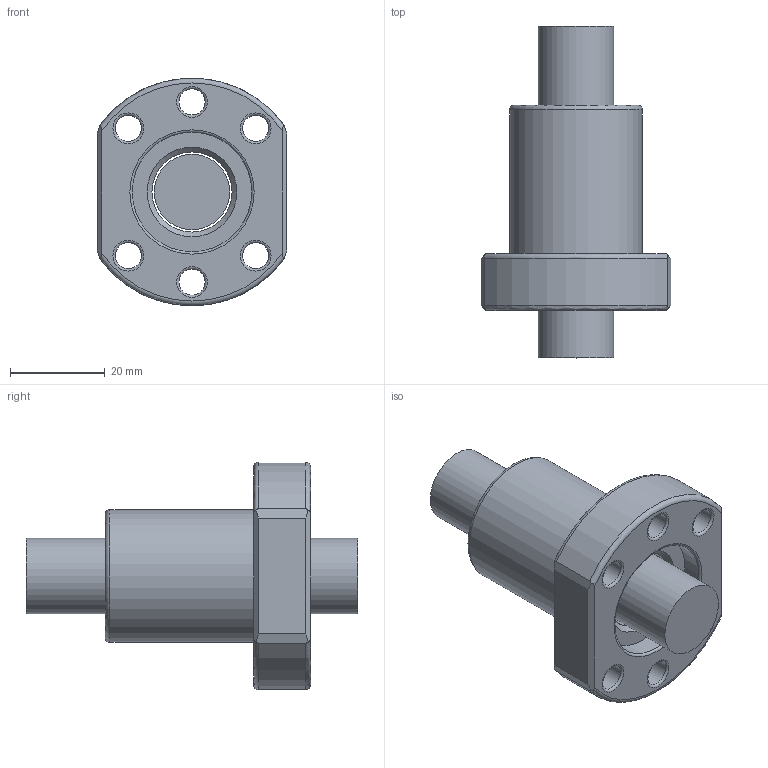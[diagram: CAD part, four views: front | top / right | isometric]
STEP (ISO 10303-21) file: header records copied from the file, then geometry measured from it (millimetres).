
FILE_DESCRIPTION(/* description */ (''),/* implementation_level */ '2;1');
FILE_NAME(/* name */ '1610.prt.step',/* time_stamp */ '2008-12-05T09:30:04+08:00',/* author */ (''),/* organization */ (''),/* preprocessor_version */ 'ST-DEVELOPER v11',/* originating_system */ 'SIEMENS UGS NX 6.0',/* authorisation */ '');
FILE_SCHEMA (('AUTOMOTIVE_DESIGN { 1 0 10303 214 1 1 1 1 }'));
Length unit declared in the file: millimetre
Products named in the file (1): 1610
Bounding box: 40 x 70 x 47.92 mm (x, y, z)
Volume: 39089.9 mm3; surface area: 14487.1 mm2
Topology: 2 solids, 2 shells, 50 faces, 117 edges, 73 vertices
Faces by surface type: torus 19, plane 16, cylinder 13, cone 2
Full cylindrical faces by diameter (mm): 5.5 x6, 15.95 x1, 16.9 x1, 25.2 x2, 28 x1
Entity records: 1526 total; most frequent: CARTESIAN_POINT 447, DIRECTION 218, ORIENTED_EDGE 172, AXIS2_PLACEMENT_3D 97, EDGE_LOOP 94, EDGE_CURVE 86, FACE_BOUND 76, VERTEX_POINT 70
